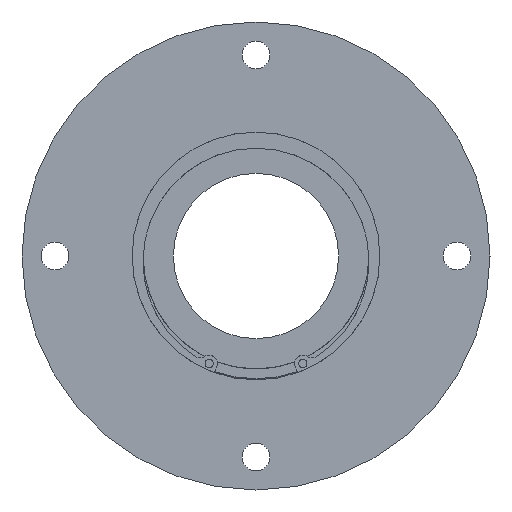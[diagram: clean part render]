
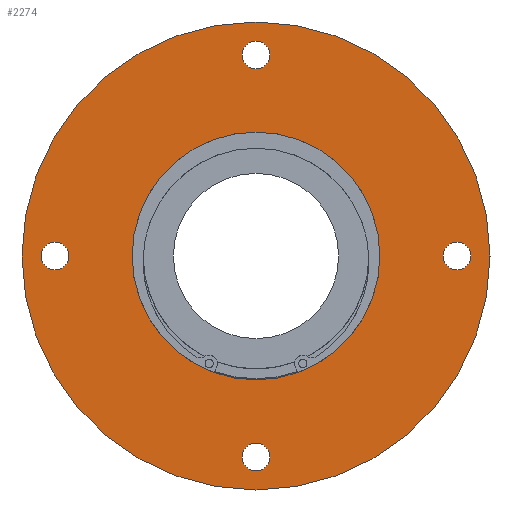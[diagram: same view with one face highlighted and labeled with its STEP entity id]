
A CAD part, left-side view. The second image highlights one B-rep face of the part: STEP entity #2274.
In plain terms, the highlighted planar face has unit normal (-1, 0, 0).
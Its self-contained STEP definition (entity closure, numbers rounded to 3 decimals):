
#1247=CARTESIAN_POINT('',(0.0,73.0,-5.053));
#1248=VERTEX_POINT('',#1247);
#1249=CARTESIAN_POINT('',(0.0,73.0,0.));
#1250=DIRECTION('',(1.0,0.0,0.0));
#1251=DIRECTION('',(0.0,0.0,-1.0));
#1252=AXIS2_PLACEMENT_3D('',#1249,#1250,#1251);
#1253=CIRCLE('',#1252,5.053);
#1254=EDGE_CURVE('',#1248,#1248,#1253,.T.);
#1275=CARTESIAN_POINT('',(0.0,-5.053,-73.0));
#1276=VERTEX_POINT('',#1275);
#1277=CARTESIAN_POINT('',(0.0,0.,-73.0));
#1278=DIRECTION('',(1.0,0.0,0.0));
#1279=DIRECTION('',(0.0,-1.0,0.0));
#1280=AXIS2_PLACEMENT_3D('',#1277,#1278,#1279);
#1281=CIRCLE('',#1280,5.053);
#1282=EDGE_CURVE('',#1276,#1276,#1281,.T.);
#1303=CARTESIAN_POINT('',(0.0,-73.0,5.053));
#1304=VERTEX_POINT('',#1303);
#1305=CARTESIAN_POINT('',(0.0,-73.0,0.));
#1306=DIRECTION('',(1.0,0.0,0.0));
#1307=DIRECTION('',(0.0,0.0,1.0));
#1308=AXIS2_PLACEMENT_3D('',#1305,#1306,#1307);
#1309=CIRCLE('',#1308,5.053);
#1310=EDGE_CURVE('',#1304,#1304,#1309,.T.);
#1331=CARTESIAN_POINT('',(0.0,5.053,73.0));
#1332=VERTEX_POINT('',#1331);
#1333=CARTESIAN_POINT('',(0.0,0.,73.0));
#1334=DIRECTION('',(1.0,0.0,0.0));
#1335=DIRECTION('',(0.0,1.0,0.0));
#1336=AXIS2_PLACEMENT_3D('',#1333,#1334,#1335);
#1337=CIRCLE('',#1336,5.053);
#1338=EDGE_CURVE('',#1332,#1332,#1337,.T.);
#2222=CARTESIAN_POINT('',(0.0,0.0,45.0));
#2223=VERTEX_POINT('',#2222);
#2224=CARTESIAN_POINT('',(0.0,0.0,0.0));
#2225=DIRECTION('',(-1.0,0.0,0.0));
#2226=DIRECTION('',(0.0,0.0,1.0));
#2227=AXIS2_PLACEMENT_3D('',#2224,#2225,#2226);
#2228=CIRCLE('',#2227,45.0);
#2229=EDGE_CURVE('',#2223,#2223,#2228,.T.);
#2243=CARTESIAN_POINT('',(0.0,0.0,65.0));
#2244=DIRECTION('',(-1.0,0.0,0.0));
#2245=DIRECTION('',(0.0,0.0,1.0));
#2246=AXIS2_PLACEMENT_3D('',#2243,#2244,#2245);
#2247=PLANE('',#2246);
#2248=CARTESIAN_POINT('',(0.0,0.0,85.0));
#2249=VERTEX_POINT('',#2248);
#2250=CARTESIAN_POINT('',(0.0,0.0,0.0));
#2251=DIRECTION('',(-1.0,0.0,0.0));
#2252=DIRECTION('',(0.0,0.0,1.0));
#2253=AXIS2_PLACEMENT_3D('',#2250,#2251,#2252);
#2254=CIRCLE('',#2253,85.0);
#2255=EDGE_CURVE('',#2249,#2249,#2254,.T.);
#2256=ORIENTED_EDGE('',*,*,#2255,.T.);
#2257=EDGE_LOOP('',(#2256));
#2258=FACE_OUTER_BOUND('',#2257,.T.);
#2259=ORIENTED_EDGE('',*,*,#1254,.T.);
#2260=EDGE_LOOP('',(#2259));
#2261=FACE_BOUND('',#2260,.T.);
#2262=ORIENTED_EDGE('',*,*,#1282,.T.);
#2263=EDGE_LOOP('',(#2262));
#2264=FACE_BOUND('',#2263,.T.);
#2265=ORIENTED_EDGE('',*,*,#1310,.T.);
#2266=EDGE_LOOP('',(#2265));
#2267=FACE_BOUND('',#2266,.T.);
#2268=ORIENTED_EDGE('',*,*,#1338,.T.);
#2269=EDGE_LOOP('',(#2268));
#2270=FACE_BOUND('',#2269,.T.);
#2271=ORIENTED_EDGE('',*,*,#2229,.F.);
#2272=EDGE_LOOP('',(#2271));
#2273=FACE_BOUND('',#2272,.T.);
#2274=ADVANCED_FACE('',(#2258,#2261,#2264,#2267,#2270,#2273),#2247,.T.);
